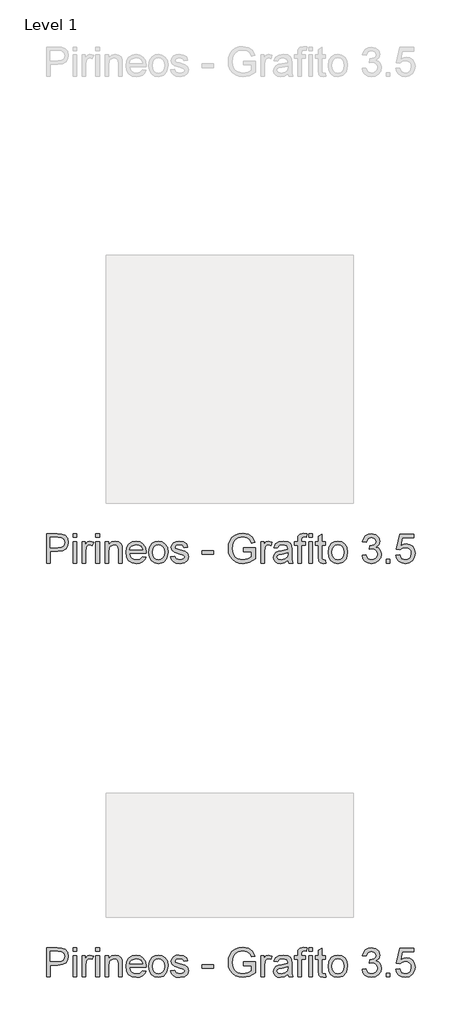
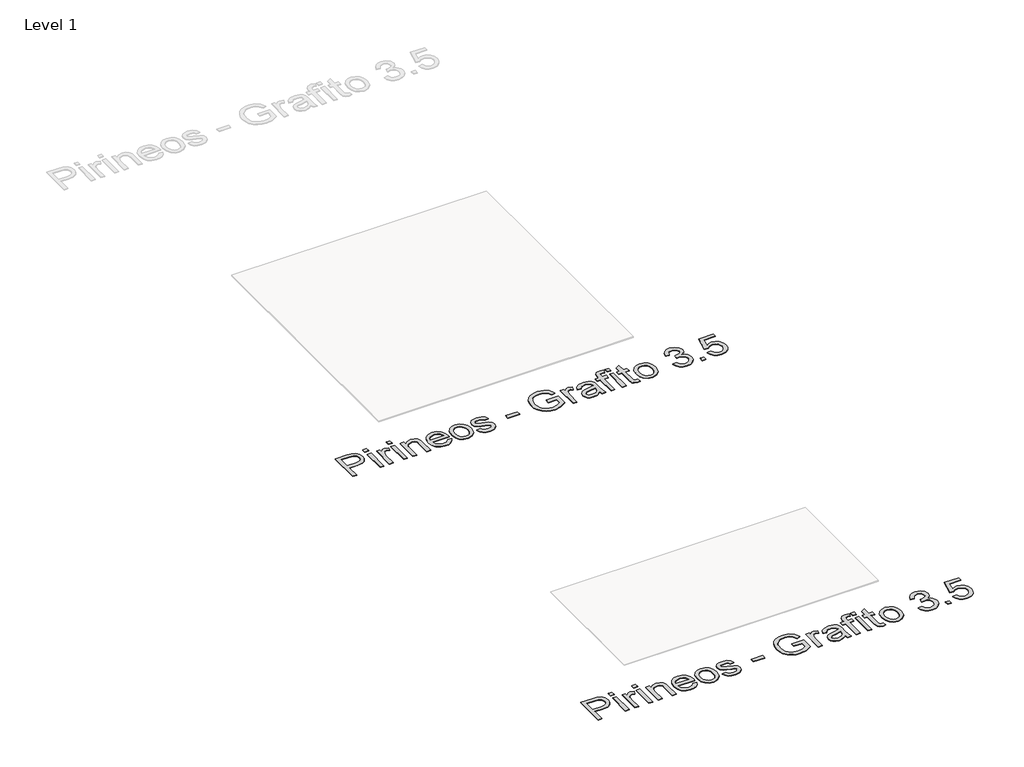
# One storey, part 27 of 80: 2 proxies.
"""IFC4 building model written with IfcOpenShell, lengths in millimetres."""

from ifc_helpers import new_model, si_unit, origin, origin_with_axes, place, context, project, spatial, polyline, outline, extrude, element, save

model = new_model("IFC4")

# Units and contexts
model_context = context("Model", 3, world=origin())
ifc_project = project(units=[si_unit("LENGTHUNIT", "METRE", prefix="MILLI")], contexts=[model_context])

# Site, building, storey
site = spatial("IfcSite", under=ifc_project)
building = spatial("IfcBuilding", under=site)
storey = spatial("IfcBuildingStorey", under=building, Name="Level 1", Elevation=0.0)

# Proxies
placement = place(None, origin())
element("IfcBuildingElementProxy", 1, Name="24\" Arial", ObjectType="24\" Arial", at=placement, inside=storey, context=model_context, shape_type="SweptSolid", body=[
    extrude(outline(polyline([(-3326.7684156, -616.5984808), (-3326.7684156, -498.4446346), (-3282.9799541, -498.4446346), (-3265.3261079, -499.5696346), (-3250.9751464, -505.0936731), (-3241.6722617, -516.51675), (-3238.153031, -532.6273269), (-3240.5292329, -546.5528077), (-3247.6578387, -558.1561731), (-3260.9883675, -565.9879038), (-3281.9703387, -568.5984808), (-3311.9991848, -568.5984808), (-3311.9991848, -616.5984808), (-3326.7684156, -616.5984808)]), holes=[polyline([(-3311.9991848, -553.82925), (-3281.1049541, -553.82925), (-3268.0088002, -552.4734808), (-3259.3549541, -548.4061731), (-3254.5304348, -541.8797308), (-3252.9222617, -533.1465577), (-3256.715531, -520.9157884), (-3266.6818771, -514.2234808), (-3281.4511079, -513.2138654), (-3311.9991848, -513.2138654), (-3311.9991848, -553.82925)])]), origin_with_axes(), (0.0, 0.0, 1.0), 2.0),
    extrude(outline(polyline([(-3219.6914925, -616.5984808), (-3219.6914925, -529.82925), (-3204.9222617, -529.82925), (-3204.9222617, -616.5984808), (-3219.6914925, -616.5984808)])), origin_with_axes(), (0.0, 0.0, 1.0), 2.0),
    extrude(outline(polyline([(-3219.6914925, -513.2138654), (-3219.6914925, -498.4446346), (-3204.9222617, -498.4446346), (-3204.9222617, -513.2138654), (-3219.6914925, -513.2138654)])), origin_with_axes(), (0.0, 0.0, 1.0), 2.0),
    extrude(outline(polyline([(-3182.7684156, -616.5984808), (-3182.7684156, -529.82925), (-3169.8453387, -529.82925), (-3169.8453387, -542.6657884), (-3160.6722617, -530.8388654), (-3151.4414925, -527.9830961), (-3136.6145694, -532.5407884), (-3141.5472617, -545.7811731), (-3151.9318771, -542.7523269), (-3160.2828387, -545.6657884), (-3165.6049541, -553.7427115), (-3167.9991848, -570.9927115), (-3167.9991848, -616.5984808), (-3182.7684156, -616.5984808)])), origin_with_axes(), (0.0, 0.0, 1.0), 2.0),
    extrude(outline(polyline([(-3127.3838002, -616.5984808), (-3127.3838002, -529.82925), (-3112.6145694, -529.82925), (-3112.6145694, -616.5984808), (-3127.3838002, -616.5984808)])), origin_with_axes(), (0.0, 0.0, 1.0), 2.0),
    extrude(outline(polyline([(-3127.3838002, -513.2138654), (-3127.3838002, -498.4446346), (-3112.6145694, -498.4446346), (-3112.6145694, -513.2138654), (-3127.3838002, -513.2138654)])), origin_with_axes(), (0.0, 0.0, 1.0), 2.0),
    extrude(outline(polyline([(-3090.4607233, -616.5984808), (-3090.4607233, -529.82925), (-3075.6914925, -529.82925), (-3075.6914925, -541.9446346), (-3064.3982233, -531.4734808), (-3048.9799541, -527.9830961), (-3035.0328387, -530.7955961), (-3025.5136079, -538.1802115), (-3021.0857233, -549.0407884), (-3020.3068771, -563.3196346), (-3020.3068771, -616.5984808), (-3035.0761079, -616.5984808), (-3035.0761079, -565.3100192), (-3036.778031, -552.2427115), (-3042.7924541, -545.3340577), (-3052.9318771, -542.7523269), (-3068.9559156, -548.5504038), (-3074.0075983, -556.9518461), (-3075.6914925, -570.5600192), (-3075.6914925, -616.5984808), (-3090.4607233, -616.5984808)])), origin_with_axes(), (0.0, 0.0, 1.0), 2.0),
    extrude(outline(polyline([(-2939.2491848, -590.7523269), (-2924.7684156, -592.5984808), (-2929.9859637, -603.5095384), (-2938.3116848, -611.6657884), (-2949.5580791, -616.7499231), (-2963.5376464, -618.4446346), (-2980.8669733, -615.5203558), (-2994.2011079, -606.7475192), (-3002.7035117, -592.6958365), (-3005.5376464, -573.9350192), (-3002.6746656, -554.5431923), (-2994.0857233, -540.0407884), (-2980.9318771, -530.9975192), (-2964.3741848, -527.9830961), (-2948.3321175, -530.9903077), (-2935.5136079, -540.0119423), (-2927.1085598, -554.4855), (-2924.3068771, -573.8484808), (-2924.3934156, -577.82925), (-2990.7684156, -577.82925), (-2988.2119252, -588.8845384), (-2982.2732233, -597.0119423), (-2973.7023098, -602.0095384), (-2963.2491848, -603.6754038), (-2948.7684156, -600.5888654), (-2939.2491848, -590.7523269)]), holes=[polyline([(-2990.7684156, -563.0600192), (-2939.0761079, -563.0600192), (-2944.9895694, -549.6754038), (-2953.6001464, -544.4830961), (-2964.4318771, -542.7523269), (-2982.6193771, -548.2763654), (-2988.3417329, -554.7342981), (-2990.7684156, -563.0600192)])]), origin_with_axes(), (0.0, 0.0, 1.0), 2.0),
    extrude(outline(polyline([(-2913.2299541, -573.2138654), (-2910.0352425, -552.2931923), (-2900.4511079, -537.5888654), (-2888.6097617, -530.3845384), (-2874.4318771, -527.9830961), (-2858.9162521, -530.907375), (-2846.5232233, -539.6802115), (-2838.3994252, -553.6092981), (-2835.6914925, -572.0023269), (-2840.4799541, -598.2811731), (-2854.4270694, -613.1513654), (-2874.4318771, -618.4446346), (-2890.1350021, -615.5311731), (-2902.5136079, -606.7907884), (-2910.5508675, -592.5696346), (-2913.2299541, -573.2138654)]), holes=[polyline([(-2898.4607233, -573.1850192), (-2896.7515887, -586.5516058), (-2891.6241848, -596.0744423), (-2883.9078387, -601.7751634), (-2874.4318771, -603.6754038), (-2864.9991848, -601.7643461), (-2857.2972617, -596.0311731), (-2852.1698579, -586.3821346), (-2850.4607233, -572.7234808), (-2852.1806752, -559.7463173), (-2857.340531, -550.3532884), (-2865.0532714, -544.6525673), (-2874.4318771, -542.7523269), (-2883.9078387, -544.6453558), (-2891.6241848, -550.3244423), (-2896.7515887, -559.8256442), (-2898.4607233, -573.1850192)])]), origin_with_axes(), (0.0, 0.0, 1.0), 2.0),
    extrude(outline(polyline([(-2824.6145694, -590.7523269), (-2809.8453387, -588.9061731), (-2803.0088002, -599.8677115), (-2787.3453387, -603.6754038), (-2772.2876464, -600.1850192), (-2767.3838002, -591.9927115), (-2772.3164925, -585.3580961), (-2787.5184156, -581.1465577), (-2809.7588002, -573.9205961), (-2819.465531, -565.4830961), (-2822.7684156, -553.5696346), (-2820.1145694, -542.5648269), (-2812.8741848, -534.1561731), (-2803.4847617, -529.7859808), (-2790.778031, -527.9830961), (-2772.8068771, -530.8821346), (-2761.3838002, -538.7282884), (-2756.3068771, -551.9830961), (-2771.0761079, -553.82925), (-2776.6289925, -545.6802115), (-2789.6241848, -542.7523269), (-2803.7588002, -545.5504038), (-2807.9991848, -552.0696346), (-2806.2395694, -556.3677115), (-2800.7299541, -559.6273269), (-2788.0088002, -562.7715577), (-2766.3309156, -569.7234808), (-2756.2636079, -577.5984808), (-2752.6145694, -590.4350192), (-2756.8982233, -604.5696346), (-2769.2588002, -614.8244423), (-2787.5472617, -618.4446346), (-2802.4390887, -616.6994423), (-2813.3068771, -611.4638654), (-2820.5616848, -602.7955961), (-2824.6145694, -590.7523269)])), origin_with_axes(), (0.0, 0.0, 1.0), 2.0),
    extrude(outline(polyline([(-2697.2299541, -581.5215577), (-2697.2299541, -566.7523269), (-2651.0761079, -566.7523269), (-2651.0761079, -581.5215577), (-2697.2299541, -581.5215577)])), origin_with_axes(), (0.0, 0.0, 1.0), 2.0),
    extrude(outline(polyline([(-2531.0761079, -570.4446346), (-2531.0761079, -555.6754038), (-2483.0761079, -555.6754038), (-2483.0761079, -599.8388654), (-2506.7732233, -613.7715577), (-2531.8261079, -618.4446346), (-2548.3946175, -616.5876634), (-2563.3693771, -611.01675), (-2575.809281, -601.9266058), (-2584.7732233, -589.5119423), (-2590.1926944, -574.6201154), (-2591.9991848, -558.0984808), (-2590.199906, -541.4578558), (-2584.8020694, -525.9782884), (-2576.0292329, -512.9939134), (-2564.1049541, -503.8388654), (-2549.5809156, -498.4085769), (-2533.0088002, -496.5984808), (-2509.903031, -500.7955961), (-2493.7059156, -512.4782884), (-2484.778031, -532.0215577), (-2498.3934156, -535.8580961), (-2505.1289925, -522.1994423), (-2516.6386079, -514.3244423), (-2533.2395694, -511.3677115), (-2552.1482233, -514.5552115), (-2565.0136079, -522.9205961), (-2572.6145694, -534.3004038), (-2577.2299541, -557.4927115), (-2575.8417329, -571.6165096), (-2571.6770694, -583.2379038), (-2564.8621656, -592.2739615), (-2555.5232233, -598.64175), (-2533.0088002, -603.6754038), (-2512.8020694, -599.8821346), (-2497.8453387, -591.7907884), (-2497.8453387, -570.4446346), (-2531.0761079, -570.4446346)])), origin_with_axes(), (0.0, 0.0, 1.0), 2.0),
    extrude(outline(polyline([(-2460.9222617, -616.5984808), (-2460.9222617, -529.82925), (-2447.9991848, -529.82925), (-2447.9991848, -542.6657884), (-2438.8261079, -530.8388654), (-2429.5953387, -527.9830961), (-2414.7684156, -532.5407884), (-2419.7011079, -545.7811731), (-2430.0857233, -542.7523269), (-2438.4366848, -545.6657884), (-2443.7588002, -553.7427115), (-2446.153031, -570.9927115), (-2446.153031, -616.5984808), (-2460.9222617, -616.5984808)])), origin_with_axes(), (0.0, 0.0, 1.0), 2.0),
    extrude(outline(polyline([(-2350.153031, -605.5215577), (-2364.4751464, -615.5311731), (-2380.2972617, -618.4446346), (-2392.6398098, -616.6922308), (-2401.7443771, -611.4350192), (-2407.3585598, -603.4518461), (-2409.2299541, -593.5215577), (-2406.403031, -581.8388654), (-2398.9751464, -573.3580961), (-2388.6338002, -568.5119423), (-2375.8549541, -566.2907884), (-2350.2395694, -561.2138654), (-2350.153031, -557.9254038), (-2354.2203387, -547.0215577), (-2370.5472617, -542.7523269), (-2385.4895694, -545.5936731), (-2392.6145694, -555.6754038), (-2407.3838002, -553.82925), (-2400.9943771, -539.4061731), (-2388.1289925, -530.95425), (-2368.6434156, -527.9830961), (-2350.7443771, -530.6080961), (-2340.6338002, -537.1994423), (-2336.1049541, -547.2234808), (-2335.3838002, -560.1465577), (-2335.3838002, -578.5215577), (-2334.6338002, -604.1802115), (-2331.6914925, -616.5984808), (-2346.4607233, -616.5984808), (-2350.153031, -605.5215577)]), holes=[polyline([(-2350.153031, -575.9830961), (-2373.9799541, -580.5119423), (-2386.6866848, -582.9061731), (-2392.4414925, -586.8004038), (-2394.4607233, -592.4830961), (-2390.0616848, -600.4734808), (-2377.153031, -603.6754038), (-2362.2107233, -600.14175), (-2352.5761079, -591.5888654), (-2350.2395694, -580.1657884), (-2350.153031, -575.9830961)])]), origin_with_axes(), (0.0, 0.0, 1.0), 2.0),
    extrude(outline(polyline([(-2311.3838002, -616.5984808), (-2311.3838002, -544.5984808), (-2324.3068771, -544.5984808), (-2324.3068771, -529.82925), (-2311.3838002, -529.82925), (-2311.3838002, -521.0888654), (-2309.8261079, -508.7715577), (-2302.2684156, -499.9734808), (-2287.3838002, -496.5984808), (-2273.9126464, -498.2138654), (-2276.0761079, -512.0600192), (-2284.5857233, -511.3677115), (-2293.8886079, -513.8196346), (-2296.6145694, -522.9638654), (-2296.6145694, -529.82925), (-2279.9991848, -529.82925), (-2279.9991848, -544.5984808), (-2296.6145694, -544.5984808), (-2296.6145694, -616.5984808), (-2311.3838002, -616.5984808)])), origin_with_axes(), (0.0, 0.0, 1.0), 2.0),
    extrude(outline(polyline([(-2267.0761079, -616.5984808), (-2267.0761079, -529.82925), (-2252.3068771, -529.82925), (-2252.3068771, -616.5984808), (-2267.0761079, -616.5984808)])), origin_with_axes(), (0.0, 0.0, 1.0), 2.0),
    extrude(outline(polyline([(-2267.0761079, -513.2138654), (-2267.0761079, -498.4446346), (-2252.3068771, -498.4446346), (-2252.3068771, -513.2138654), (-2267.0761079, -513.2138654)])), origin_with_axes(), (0.0, 0.0, 1.0), 2.0),
    extrude(outline(polyline([(-2198.7684156, -604.2811731), (-2196.9222617, -617.0311731), (-2207.9703387, -618.4446346), (-2220.3453387, -615.9927115), (-2226.5184156, -609.5600192), (-2228.3068771, -592.8004038), (-2228.3068771, -544.5984808), (-2239.3838002, -544.5984808), (-2239.3838002, -529.82925), (-2228.3068771, -529.82925), (-2228.3068771, -508.7427115), (-2213.5376464, -500.0600192), (-2213.5376464, -529.82925), (-2198.7684156, -529.82925), (-2198.7684156, -544.5984808), (-2213.5376464, -544.5984808), (-2213.5376464, -592.3677115), (-2212.7588002, -599.9830961), (-2210.2347617, -602.6802115), (-2205.2011079, -603.6754038), (-2198.7684156, -604.2811731)])), origin_with_axes(), (0.0, 0.0, 1.0), 2.0),
    extrude(outline(polyline([(-2187.6914925, -573.2138654), (-2184.496781, -552.2931923), (-2174.9126464, -537.5888654), (-2163.0713002, -530.3845384), (-2148.8934156, -527.9830961), (-2133.3777906, -530.907375), (-2120.9847617, -539.6802115), (-2112.8609637, -553.6092981), (-2110.153031, -572.0023269), (-2114.9414925, -598.2811731), (-2128.8886079, -613.1513654), (-2148.8934156, -618.4446346), (-2164.5965406, -615.5311731), (-2176.9751464, -606.7907884), (-2185.012406, -592.5696346), (-2187.6914925, -573.2138654)]), holes=[polyline([(-2172.9222617, -573.1850192), (-2171.2131271, -586.5516058), (-2166.0857233, -596.0744423), (-2158.3693771, -601.7751634), (-2148.8934156, -603.6754038), (-2139.4607233, -601.7643461), (-2131.7588002, -596.0311731), (-2126.6313964, -586.3821346), (-2124.9222617, -572.7234808), (-2126.6422137, -559.7463173), (-2131.8020694, -550.3532884), (-2139.5148098, -544.6525673), (-2148.8934156, -542.7523269), (-2158.3693771, -544.6453558), (-2166.0857233, -550.3244423), (-2171.2131271, -559.8256442), (-2172.9222617, -573.1850192)])]), origin_with_axes(), (0.0, 0.0, 1.0), 2.0),
    extrude(outline(polyline([(-2051.0761079, -585.2138654), (-2036.3068771, -583.3677115), (-2028.1578387, -598.9157884), (-2012.9126464, -603.6754038), (-2002.7876464, -602.0383846), (-1994.9703387, -597.1273269), (-1989.9727425, -589.8004038), (-1988.3068771, -580.9157884), (-1989.9583194, -572.4818942), (-1994.9126464, -565.64175), (-2002.4126464, -561.1092981), (-2011.7011079, -559.5984808), (-2022.0568771, -561.2138654), (-2020.4126464, -546.4446346), (-2018.0472617, -546.6177115), (-2001.2876464, -542.3773269), (-1995.7059156, -536.9975192), (-1993.8453387, -529.3388654), (-1999.2395694, -517.7859808), (-2013.1434156, -513.2138654), (-2027.2203387, -517.82925), (-2034.4607233, -531.6754038), (-2049.2299541, -529.82925), (-2044.8813964, -516.5672308), (-2037.1434156, -506.6657884), (-2026.5568771, -500.4999231), (-2013.6626464, -498.4446346), (-1995.8501464, -502.4975192), (-1983.3886079, -513.5744423), (-1979.0761079, -528.4734808), (-1983.1722617, -542.0888654), (-1995.2876464, -551.8677115), (-1986.0424541, -555.6032884), (-1979.1914925, -561.9638654), (-1974.9511079, -570.6032884), (-1973.5376464, -581.1754038), (-1976.3645694, -595.5696346), (-1984.8453387, -607.5984808), (-1997.6458194, -615.7330961), (-2013.4318771, -618.4446346), (-2027.7107233, -616.1297308), (-2039.3357233, -609.1850192), (-2047.4198579, -598.5624231), (-2051.0761079, -585.2138654)])), origin_with_axes(), (0.0, 0.0, 1.0), 2.0),
    extrude(outline(polyline([(-1953.2299541, -616.5984808), (-1953.2299541, -601.82925), (-1938.4607233, -601.82925), (-1938.4607233, -616.5984808), (-1953.2299541, -616.5984808)])), origin_with_axes(), (0.0, 0.0, 1.0), 2.0),
    extrude(outline(polyline([(-1914.4607233, -585.2138654), (-1899.6914925, -583.3677115), (-1892.2491848, -598.5840577), (-1876.8164925, -603.6754038), (-1866.2299541, -601.9049711), (-1858.2972617, -596.5936731), (-1853.3429348, -588.3544904), (-1851.6914925, -577.8004038), (-1853.2383675, -567.8629038), (-1857.8789925, -560.2619423), (-1865.6494252, -555.4374231), (-1876.5857233, -553.82925), (-1889.5520694, -556.3965577), (-1897.8453387, -563.0600192), (-1912.6145694, -561.2138654), (-1899.6914925, -500.2907884), (-1842.4607233, -500.2907884), (-1842.4607233, -515.0600192), (-1887.7491848, -515.0600192), (-1894.0664925, -547.5984808), (-1883.5160117, -541.1946346), (-1872.4607233, -539.0600192), (-1858.6614444, -541.7066538), (-1847.2059156, -549.6465577), (-1839.4931752, -561.7475192), (-1836.9222617, -576.8773269), (-1839.2371656, -591.6465577), (-1846.1818771, -604.2811731), (-1859.4799541, -614.9037692), (-1876.8741848, -618.4446346), (-1891.3801944, -616.1693942), (-1902.9366848, -609.3436731), (-1910.8585598, -598.7607404), (-1914.4607233, -585.2138654)])), origin_with_axes(), (0.0, 0.0, 1.0), 2.0),
])
element("IfcBuildingElementProxy", 2, Name="24\" Arial", ObjectType="24\" Arial", at=placement, inside=storey, context=model_context, shape_type="SweptSolid", body=[
    extrude(outline(polyline([(-3326.7684156, -2287.8052427), (-3326.7684156, -2169.6513966), (-3282.9799541, -2169.6513966), (-3265.3261079, -2170.7763966), (-3250.9751464, -2176.300435), (-3241.6722617, -2187.723512), (-3238.153031, -2203.8340889), (-3240.5292329, -2217.7595697), (-3247.6578387, -2229.362935), (-3260.9883675, -2237.1946658), (-3281.9703387, -2239.8052427), (-3311.9991848, -2239.8052427), (-3311.9991848, -2287.8052427), (-3326.7684156, -2287.8052427)]), holes=[polyline([(-3311.9991848, -2225.036012), (-3281.1049541, -2225.036012), (-3268.0088002, -2223.6802427), (-3259.3549541, -2219.612935), (-3254.5304348, -2213.0864927), (-3252.9222617, -2204.3533197), (-3256.715531, -2192.1225504), (-3266.6818771, -2185.4302427), (-3281.4511079, -2184.4206273), (-3311.9991848, -2184.4206273), (-3311.9991848, -2225.036012)])]), origin_with_axes(), (0.0, 0.0, 1.0), 2.0),
    extrude(outline(polyline([(-3219.6914925, -2287.8052427), (-3219.6914925, -2201.036012), (-3204.9222617, -2201.036012), (-3204.9222617, -2287.8052427), (-3219.6914925, -2287.8052427)])), origin_with_axes(), (0.0, 0.0, 1.0), 2.0),
    extrude(outline(polyline([(-3219.6914925, -2184.4206273), (-3219.6914925, -2169.6513966), (-3204.9222617, -2169.6513966), (-3204.9222617, -2184.4206273), (-3219.6914925, -2184.4206273)])), origin_with_axes(), (0.0, 0.0, 1.0), 2.0),
    extrude(outline(polyline([(-3182.7684156, -2287.8052427), (-3182.7684156, -2201.036012), (-3169.8453387, -2201.036012), (-3169.8453387, -2213.8725504), (-3160.6722617, -2202.0456273), (-3151.4414925, -2199.1898581), (-3136.6145694, -2203.7475504), (-3141.5472617, -2216.987935), (-3151.9318771, -2213.9590889), (-3160.2828387, -2216.8725504), (-3165.6049541, -2224.9494735), (-3167.9991848, -2242.1994735), (-3167.9991848, -2287.8052427), (-3182.7684156, -2287.8052427)])), origin_with_axes(), (0.0, 0.0, 1.0), 2.0),
    extrude(outline(polyline([(-3127.3838002, -2287.8052427), (-3127.3838002, -2201.036012), (-3112.6145694, -2201.036012), (-3112.6145694, -2287.8052427), (-3127.3838002, -2287.8052427)])), origin_with_axes(), (0.0, 0.0, 1.0), 2.0),
    extrude(outline(polyline([(-3127.3838002, -2184.4206273), (-3127.3838002, -2169.6513966), (-3112.6145694, -2169.6513966), (-3112.6145694, -2184.4206273), (-3127.3838002, -2184.4206273)])), origin_with_axes(), (0.0, 0.0, 1.0), 2.0),
    extrude(outline(polyline([(-3090.4607233, -2287.8052427), (-3090.4607233, -2201.036012), (-3075.6914925, -2201.036012), (-3075.6914925, -2213.1513966), (-3064.3982233, -2202.6802427), (-3048.9799541, -2199.1898581), (-3035.0328387, -2202.0023581), (-3025.5136079, -2209.3869735), (-3021.0857233, -2220.2475504), (-3020.3068771, -2234.5263966), (-3020.3068771, -2287.8052427), (-3035.0761079, -2287.8052427), (-3035.0761079, -2236.5167812), (-3036.778031, -2223.4494735), (-3042.7924541, -2216.5408197), (-3052.9318771, -2213.9590889), (-3068.9559156, -2219.7571658), (-3074.0075983, -2228.1586081), (-3075.6914925, -2241.7667812), (-3075.6914925, -2287.8052427), (-3090.4607233, -2287.8052427)])), origin_with_axes(), (0.0, 0.0, 1.0), 2.0),
    extrude(outline(polyline([(-2939.2491848, -2261.9590889), (-2924.7684156, -2263.8052427), (-2929.9859637, -2274.7163004), (-2938.3116848, -2282.8725504), (-2949.5580791, -2287.956685), (-2963.5376464, -2289.6513966), (-2980.8669733, -2286.7271177), (-2994.2011079, -2277.9542812), (-3002.7035117, -2263.9025985), (-3005.5376464, -2245.1417812), (-3002.6746656, -2225.7499543), (-2994.0857233, -2211.2475504), (-2980.9318771, -2202.2042812), (-2964.3741848, -2199.1898581), (-2948.3321175, -2202.1970697), (-2935.5136079, -2211.2187043), (-2927.1085598, -2225.692262), (-2924.3068771, -2245.0552427), (-2924.3934156, -2249.036012), (-2990.7684156, -2249.036012), (-2988.2119252, -2260.0913004), (-2982.2732233, -2268.2187043), (-2973.7023098, -2273.2163004), (-2963.2491848, -2274.8821658), (-2948.7684156, -2271.7956273), (-2939.2491848, -2261.9590889)]), holes=[polyline([(-2990.7684156, -2234.2667812), (-2939.0761079, -2234.2667812), (-2944.9895694, -2220.8821658), (-2953.6001464, -2215.6898581), (-2964.4318771, -2213.9590889), (-2982.6193771, -2219.4831273), (-2988.3417329, -2225.94106), (-2990.7684156, -2234.2667812)])]), origin_with_axes(), (0.0, 0.0, 1.0), 2.0),
    extrude(outline(polyline([(-2913.2299541, -2244.4206273), (-2910.0352425, -2223.4999543), (-2900.4511079, -2208.7956273), (-2888.6097617, -2201.5913004), (-2874.4318771, -2199.1898581), (-2858.9162521, -2202.114137), (-2846.5232233, -2210.8869735), (-2838.3994252, -2224.81606), (-2835.6914925, -2243.2090889), (-2840.4799541, -2269.487935), (-2854.4270694, -2284.3581273), (-2874.4318771, -2289.6513966), (-2890.1350021, -2286.737935), (-2902.5136079, -2277.9975504), (-2910.5508675, -2263.7763966), (-2913.2299541, -2244.4206273)]), holes=[polyline([(-2898.4607233, -2244.3917812), (-2896.7515887, -2257.7583677), (-2891.6241848, -2267.2812043), (-2883.9078387, -2272.9819254), (-2874.4318771, -2274.8821658), (-2864.9991848, -2272.9711081), (-2857.2972617, -2267.237935), (-2852.1698579, -2257.5888966), (-2850.4607233, -2243.9302427), (-2852.1806752, -2230.9530793), (-2857.340531, -2221.5600504), (-2865.0532714, -2215.8593293), (-2874.4318771, -2213.9590889), (-2883.9078387, -2215.8521177), (-2891.6241848, -2221.5312043), (-2896.7515887, -2231.0324062), (-2898.4607233, -2244.3917812)])]), origin_with_axes(), (0.0, 0.0, 1.0), 2.0),
    extrude(outline(polyline([(-2824.6145694, -2261.9590889), (-2809.8453387, -2260.112935), (-2803.0088002, -2271.0744735), (-2787.3453387, -2274.8821658), (-2772.2876464, -2271.3917812), (-2767.3838002, -2263.1994735), (-2772.3164925, -2256.5648581), (-2787.5184156, -2252.3533197), (-2809.7588002, -2245.1273581), (-2819.465531, -2236.6898581), (-2822.7684156, -2224.7763966), (-2820.1145694, -2213.7715889), (-2812.8741848, -2205.362935), (-2803.4847617, -2200.9927427), (-2790.778031, -2199.1898581), (-2772.8068771, -2202.0888966), (-2761.3838002, -2209.9350504), (-2756.3068771, -2223.1898581), (-2771.0761079, -2225.036012), (-2776.6289925, -2216.8869735), (-2789.6241848, -2213.9590889), (-2803.7588002, -2216.7571658), (-2807.9991848, -2223.2763966), (-2806.2395694, -2227.5744735), (-2800.7299541, -2230.8340889), (-2788.0088002, -2233.9783197), (-2766.3309156, -2240.9302427), (-2756.2636079, -2248.8052427), (-2752.6145694, -2261.6417812), (-2756.8982233, -2275.7763966), (-2769.2588002, -2286.0312043), (-2787.5472617, -2289.6513966), (-2802.4390887, -2287.9062043), (-2813.3068771, -2282.6706273), (-2820.5616848, -2274.0023581), (-2824.6145694, -2261.9590889)])), origin_with_axes(), (0.0, 0.0, 1.0), 2.0),
    extrude(outline(polyline([(-2697.2299541, -2252.7283197), (-2697.2299541, -2237.9590889), (-2651.0761079, -2237.9590889), (-2651.0761079, -2252.7283197), (-2697.2299541, -2252.7283197)])), origin_with_axes(), (0.0, 0.0, 1.0), 2.0),
    extrude(outline(polyline([(-2531.0761079, -2241.6513966), (-2531.0761079, -2226.8821658), (-2483.0761079, -2226.8821658), (-2483.0761079, -2271.0456273), (-2506.7732233, -2284.9783197), (-2531.8261079, -2289.6513966), (-2548.3946175, -2287.7944254), (-2563.3693771, -2282.223512), (-2575.809281, -2273.1333677), (-2584.7732233, -2260.7187043), (-2590.1926944, -2245.8268773), (-2591.9991848, -2229.3052427), (-2590.199906, -2212.6646177), (-2584.8020694, -2197.1850504), (-2576.0292329, -2184.2006754), (-2564.1049541, -2175.0456273), (-2549.5809156, -2169.6153389), (-2533.0088002, -2167.8052427), (-2509.903031, -2172.0023581), (-2493.7059156, -2183.6850504), (-2484.778031, -2203.2283197), (-2498.3934156, -2207.0648581), (-2505.1289925, -2193.4062043), (-2516.6386079, -2185.5312043), (-2533.2395694, -2182.5744735), (-2552.1482233, -2185.7619735), (-2565.0136079, -2194.1273581), (-2572.6145694, -2205.5071658), (-2577.2299541, -2228.6994735), (-2575.8417329, -2242.8232716), (-2571.6770694, -2254.4446658), (-2564.8621656, -2263.4807235), (-2555.5232233, -2269.848512), (-2533.0088002, -2274.8821658), (-2512.8020694, -2271.0888966), (-2497.8453387, -2262.9975504), (-2497.8453387, -2241.6513966), (-2531.0761079, -2241.6513966)])), origin_with_axes(), (0.0, 0.0, 1.0), 2.0),
    extrude(outline(polyline([(-2460.9222617, -2287.8052427), (-2460.9222617, -2201.036012), (-2447.9991848, -2201.036012), (-2447.9991848, -2213.8725504), (-2438.8261079, -2202.0456273), (-2429.5953387, -2199.1898581), (-2414.7684156, -2203.7475504), (-2419.7011079, -2216.987935), (-2430.0857233, -2213.9590889), (-2438.4366848, -2216.8725504), (-2443.7588002, -2224.9494735), (-2446.153031, -2242.1994735), (-2446.153031, -2287.8052427), (-2460.9222617, -2287.8052427)])), origin_with_axes(), (0.0, 0.0, 1.0), 2.0),
    extrude(outline(polyline([(-2350.153031, -2276.7283197), (-2364.4751464, -2286.737935), (-2380.2972617, -2289.6513966), (-2392.6398098, -2287.8989927), (-2401.7443771, -2282.6417812), (-2407.3585598, -2274.6586081), (-2409.2299541, -2264.7283197), (-2406.403031, -2253.0456273), (-2398.9751464, -2244.5648581), (-2388.6338002, -2239.7187043), (-2375.8549541, -2237.4975504), (-2350.2395694, -2232.4206273), (-2350.153031, -2229.1321658), (-2354.2203387, -2218.2283197), (-2370.5472617, -2213.9590889), (-2385.4895694, -2216.800435), (-2392.6145694, -2226.8821658), (-2407.3838002, -2225.036012), (-2400.9943771, -2210.612935), (-2388.1289925, -2202.161012), (-2368.6434156, -2199.1898581), (-2350.7443771, -2201.8148581), (-2340.6338002, -2208.4062043), (-2336.1049541, -2218.4302427), (-2335.3838002, -2231.3533197), (-2335.3838002, -2249.7283197), (-2334.6338002, -2275.3869735), (-2331.6914925, -2287.8052427), (-2346.4607233, -2287.8052427), (-2350.153031, -2276.7283197)]), holes=[polyline([(-2350.153031, -2247.1898581), (-2373.9799541, -2251.7187043), (-2386.6866848, -2254.112935), (-2392.4414925, -2258.0071658), (-2394.4607233, -2263.6898581), (-2390.0616848, -2271.6802427), (-2377.153031, -2274.8821658), (-2362.2107233, -2271.348512), (-2352.5761079, -2262.7956273), (-2350.2395694, -2251.3725504), (-2350.153031, -2247.1898581)])]), origin_with_axes(), (0.0, 0.0, 1.0), 2.0),
    extrude(outline(polyline([(-2311.3838002, -2287.8052427), (-2311.3838002, -2215.8052427), (-2324.3068771, -2215.8052427), (-2324.3068771, -2201.036012), (-2311.3838002, -2201.036012), (-2311.3838002, -2192.2956273), (-2309.8261079, -2179.9783197), (-2302.2684156, -2171.1802427), (-2287.3838002, -2167.8052427), (-2273.9126464, -2169.4206273), (-2276.0761079, -2183.2667812), (-2284.5857233, -2182.5744735), (-2293.8886079, -2185.0263966), (-2296.6145694, -2194.1706273), (-2296.6145694, -2201.036012), (-2279.9991848, -2201.036012), (-2279.9991848, -2215.8052427), (-2296.6145694, -2215.8052427), (-2296.6145694, -2287.8052427), (-2311.3838002, -2287.8052427)])), origin_with_axes(), (0.0, 0.0, 1.0), 2.0),
    extrude(outline(polyline([(-2267.0761079, -2287.8052427), (-2267.0761079, -2201.036012), (-2252.3068771, -2201.036012), (-2252.3068771, -2287.8052427), (-2267.0761079, -2287.8052427)])), origin_with_axes(), (0.0, 0.0, 1.0), 2.0),
    extrude(outline(polyline([(-2267.0761079, -2184.4206273), (-2267.0761079, -2169.6513966), (-2252.3068771, -2169.6513966), (-2252.3068771, -2184.4206273), (-2267.0761079, -2184.4206273)])), origin_with_axes(), (0.0, 0.0, 1.0), 2.0),
    extrude(outline(polyline([(-2198.7684156, -2275.487935), (-2196.9222617, -2288.237935), (-2207.9703387, -2289.6513966), (-2220.3453387, -2287.1994735), (-2226.5184156, -2280.7667812), (-2228.3068771, -2264.0071658), (-2228.3068771, -2215.8052427), (-2239.3838002, -2215.8052427), (-2239.3838002, -2201.036012), (-2228.3068771, -2201.036012), (-2228.3068771, -2179.9494735), (-2213.5376464, -2171.2667812), (-2213.5376464, -2201.036012), (-2198.7684156, -2201.036012), (-2198.7684156, -2215.8052427), (-2213.5376464, -2215.8052427), (-2213.5376464, -2263.5744735), (-2212.7588002, -2271.1898581), (-2210.2347617, -2273.8869735), (-2205.2011079, -2274.8821658), (-2198.7684156, -2275.487935)])), origin_with_axes(), (0.0, 0.0, 1.0), 2.0),
    extrude(outline(polyline([(-2187.6914925, -2244.4206273), (-2184.496781, -2223.4999543), (-2174.9126464, -2208.7956273), (-2163.0713002, -2201.5913004), (-2148.8934156, -2199.1898581), (-2133.3777906, -2202.114137), (-2120.9847617, -2210.8869735), (-2112.8609637, -2224.81606), (-2110.153031, -2243.2090889), (-2114.9414925, -2269.487935), (-2128.8886079, -2284.3581273), (-2148.8934156, -2289.6513966), (-2164.5965406, -2286.737935), (-2176.9751464, -2277.9975504), (-2185.012406, -2263.7763966), (-2187.6914925, -2244.4206273)]), holes=[polyline([(-2172.9222617, -2244.3917812), (-2171.2131271, -2257.7583677), (-2166.0857233, -2267.2812043), (-2158.3693771, -2272.9819254), (-2148.8934156, -2274.8821658), (-2139.4607233, -2272.9711081), (-2131.7588002, -2267.237935), (-2126.6313964, -2257.5888966), (-2124.9222617, -2243.9302427), (-2126.6422137, -2230.9530793), (-2131.8020694, -2221.5600504), (-2139.5148098, -2215.8593293), (-2148.8934156, -2213.9590889), (-2158.3693771, -2215.8521177), (-2166.0857233, -2221.5312043), (-2171.2131271, -2231.0324062), (-2172.9222617, -2244.3917812)])]), origin_with_axes(), (0.0, 0.0, 1.0), 2.0),
    extrude(outline(polyline([(-2051.0761079, -2256.4206273), (-2036.3068771, -2254.5744735), (-2028.1578387, -2270.1225504), (-2012.9126464, -2274.8821658), (-2002.7876464, -2273.2451466), (-1994.9703387, -2268.3340889), (-1989.9727425, -2261.0071658), (-1988.3068771, -2252.1225504), (-1989.9583194, -2243.6886562), (-1994.9126464, -2236.848512), (-2002.4126464, -2232.31606), (-2011.7011079, -2230.8052427), (-2022.0568771, -2232.4206273), (-2020.4126464, -2217.6513966), (-2018.0472617, -2217.8244735), (-2001.2876464, -2213.5840889), (-1995.7059156, -2208.2042812), (-1993.8453387, -2200.5456273), (-1999.2395694, -2188.9927427), (-2013.1434156, -2184.4206273), (-2027.2203387, -2189.036012), (-2034.4607233, -2202.8821658), (-2049.2299541, -2201.036012), (-2044.8813964, -2187.7739927), (-2037.1434156, -2177.8725504), (-2026.5568771, -2171.706685), (-2013.6626464, -2169.6513966), (-1995.8501464, -2173.7042812), (-1983.3886079, -2184.7812043), (-1979.0761079, -2199.6802427), (-1983.1722617, -2213.2956273), (-1995.2876464, -2223.0744735), (-1986.0424541, -2226.8100504), (-1979.1914925, -2233.1706273), (-1974.9511079, -2241.8100504), (-1973.5376464, -2252.3821658), (-1976.3645694, -2266.7763966), (-1984.8453387, -2278.8052427), (-1997.6458194, -2286.9398581), (-2013.4318771, -2289.6513966), (-2027.7107233, -2287.3364927), (-2039.3357233, -2280.3917812), (-2047.4198579, -2269.769185), (-2051.0761079, -2256.4206273)])), origin_with_axes(), (0.0, 0.0, 1.0), 2.0),
    extrude(outline(polyline([(-1953.2299541, -2287.8052427), (-1953.2299541, -2273.036012), (-1938.4607233, -2273.036012), (-1938.4607233, -2287.8052427), (-1953.2299541, -2287.8052427)])), origin_with_axes(), (0.0, 0.0, 1.0), 2.0),
    extrude(outline(polyline([(-1914.4607233, -2256.4206273), (-1899.6914925, -2254.5744735), (-1892.2491848, -2269.7908197), (-1876.8164925, -2274.8821658), (-1866.2299541, -2273.1117331), (-1858.2972617, -2267.800435), (-1853.3429348, -2259.5612523), (-1851.6914925, -2249.0071658), (-1853.2383675, -2239.0696658), (-1857.8789925, -2231.4687043), (-1865.6494252, -2226.644185), (-1876.5857233, -2225.036012), (-1889.5520694, -2227.6033197), (-1897.8453387, -2234.2667812), (-1912.6145694, -2232.4206273), (-1899.6914925, -2171.4975504), (-1842.4607233, -2171.4975504), (-1842.4607233, -2186.2667812), (-1887.7491848, -2186.2667812), (-1894.0664925, -2218.8052427), (-1883.5160117, -2212.4013966), (-1872.4607233, -2210.2667812), (-1858.6614444, -2212.9134158), (-1847.2059156, -2220.8533197), (-1839.4931752, -2232.9542812), (-1836.9222617, -2248.0840889), (-1839.2371656, -2262.8533197), (-1846.1818771, -2275.487935), (-1859.4799541, -2286.1105312), (-1876.8741848, -2289.6513966), (-1891.3801944, -2287.3761562), (-1902.9366848, -2280.550435), (-1910.8585598, -2269.9675023), (-1914.4607233, -2256.4206273)])), origin_with_axes(), (0.0, 0.0, 1.0), 2.0),
])

save(model, "model.ifc")
